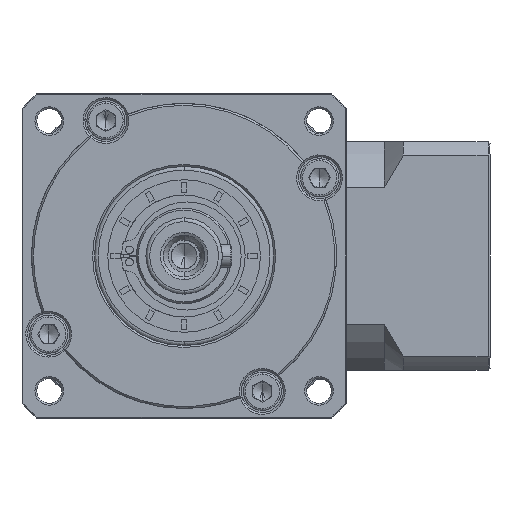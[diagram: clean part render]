
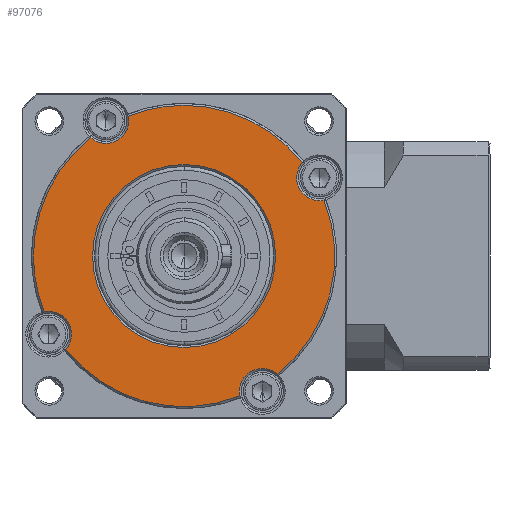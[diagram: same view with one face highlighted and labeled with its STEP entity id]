
A CAD part, left-side view. The second image highlights one B-rep face of the part: STEP entity #97076.
In plain terms, the highlighted planar face has unit normal (-1, 0, 0).
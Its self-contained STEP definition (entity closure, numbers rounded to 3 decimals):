
#1609 = ORIENTED_EDGE ( 'NONE', *, *, #156651, .T. ) ;
#2064 = CARTESIAN_POINT ( 'NONE',  ( -231.196, 13.105, 22.484 ) ) ;
#9637 = DIRECTION ( 'NONE',  ( 1., 0., 0. ) ) ;
#12214 = AXIS2_PLACEMENT_3D ( 'NONE', #108130, #16936, #123366 ) ;
#13110 = DIRECTION ( 'NONE',  ( 1., 0., 0. ) ) ;
#14337 = ORIENTED_EDGE ( 'NONE', *, *, #63316, .T. ) ;
#15468 = CARTESIAN_POINT ( 'NONE',  ( -231.196, 49.8, 7.865 ) ) ;
#16936 = DIRECTION ( 'NONE',  ( 1., 0., 0. ) ) ;
#18871 = ORIENTED_EDGE ( 'NONE', *, *, #95903, .F. ) ;
#22971 = CIRCLE ( 'NONE', #39223, 24. ) ;
#25505 = DIRECTION ( 'NONE',  ( 1., 0., 0. ) ) ;
#28348 = CIRCLE ( 'NONE', #66097, 39.5 ) ;
#30699 = DIRECTION ( 'NONE',  ( 0., 1., 0. ) ) ;
#31109 = EDGE_CURVE ( 'NONE', #88019, #94069, #172433, .T. ) ;
#32003 = CARTESIAN_POINT ( 'NONE',  ( -231.196, 25.33, -23.143 ) ) ;
#33688 = VERTEX_POINT ( 'NONE', #171262 ) ;
#34396 = VERTEX_POINT ( 'NONE', #83232 ) ;
#34654 = ORIENTED_EDGE ( 'NONE', *, *, #31109, .F. ) ;
#35747 = PLANE ( 'NONE',  #173384 ) ;
#36551 = ORIENTED_EDGE ( 'NONE', *, *, #162107, .T. ) ;
#38109 = EDGE_CURVE ( 'NONE', #94069, #62300, #65171, .T. ) ;
#38379 = CARTESIAN_POINT ( 'NONE',  ( -231.196, 80.808, -16.605 ) ) ;
#38606 = AXIS2_PLACEMENT_3D ( 'NONE', #104275, #13110, #119481 ) ;
#39223 = AXIS2_PLACEMENT_3D ( 'NONE', #88638, #194956, #103934 ) ;
#40657 = AXIS2_PLACEMENT_3D ( 'NONE', #158072, #67036, #173465 ) ;
#43710 = DIRECTION ( 'NONE',  ( 1., 0., 0. ) ) ;
#47000 = VERTEX_POINT ( 'NONE', #110642 ) ;
#50947 = ORIENTED_EDGE ( 'NONE', *, *, #136604, .T. ) ;
#52433 = DIRECTION ( 'NONE',  ( -1., 0., 0. ) ) ;
#54712 = VERTEX_POINT ( 'NONE', #139930 ) ;
#55370 = CARTESIAN_POINT ( 'NONE',  ( -231.196, 85.307, -12.635 ) ) ;
#55677 = EDGE_CURVE ( 'NONE', #54712, #33688, #157417, .T. ) ;
#56336 = ORIENTED_EDGE ( 'NONE', *, *, #93234, .T. ) ;
#57603 = EDGE_CURVE ( 'NONE', #141003, #166848, #139914, .T. ) ;
#60296 = ORIENTED_EDGE ( 'NONE', *, *, #110758, .F. ) ;
#62300 = VERTEX_POINT ( 'NONE', #191277 ) ;
#63316 = EDGE_CURVE ( 'NONE', #190993, #62300, #195968, .T. ) ;
#64178 = EDGE_LOOP ( 'NONE', ( #34654, #101072, #1609, #164021, #60296, #36551, #18871, #50947, #186577, #56336, #14337, #64873 ) ) ;
#64873 = ORIENTED_EDGE ( 'NONE', *, *, #38109, .F. ) ;
#65171 = CIRCLE ( 'NONE', #12214, 39.5 ) ;
#66097 = AXIS2_PLACEMENT_3D ( 'NONE', #100764, #9637, #116028 ) ;
#67036 = DIRECTION ( 'NONE',  ( 1., 0., 0. ) ) ;
#68455 = EDGE_CURVE ( 'NONE', #88019, #128369, #145598, .T. ) ;
#70680 = DIRECTION ( 'NONE',  ( 0., 0., -1. ) ) ;
#74310 = CARTESIAN_POINT ( 'NONE',  ( -231.196, 49.8, 7.865 ) ) ;
#77741 = CARTESIAN_POINT ( 'NONE',  ( -231.196, 49.8, 7.865 ) ) ;
#82869 = DIRECTION ( 'NONE',  ( 1., 0., 0. ) ) ;
#83061 = CIRCLE ( 'NONE', #108244, 39.5 ) ;
#83154 = AXIS2_PLACEMENT_3D ( 'NONE', #55370, #161769, #70680 ) ;
#83232 = CARTESIAN_POINT ( 'NONE',  ( -231.196, 86.495, -6.754 ) ) ;
#84898 = CARTESIAN_POINT ( 'NONE',  ( -231.196, 29.3, -27.642 ) ) ;
#85511 = CIRCLE ( 'NONE', #111395, 6. ) ;
#85834 = DIRECTION ( 'NONE',  ( 1., 0., 0. ) ) ;
#88019 = VERTEX_POINT ( 'NONE', #176083 ) ;
#88638 = CARTESIAN_POINT ( 'NONE',  ( -231.196, 49.8, 7.865 ) ) ;
#89514 = EDGE_CURVE ( 'NONE', #33688, #54712, #22971, .T. ) ;
#89718 = DIRECTION ( 'NONE',  ( 0., 0., 1. ) ) ;
#91175 = CIRCLE ( 'NONE', #38606, 6. ) ;
#93066 = DIRECTION ( 'NONE',  ( 0., -1., 0. ) ) ;
#93234 = EDGE_CURVE ( 'NONE', #141003, #190993, #91175, .T. ) ;
#94069 = VERTEX_POINT ( 'NONE', #185143 ) ;
#95903 = EDGE_CURVE ( 'NONE', #133858, #108628, #184547, .T. ) ;
#97076 = ADVANCED_FACE ( 'NONE', ( #146898, #151653 ), #35747, .T. ) ;
#97331 = CARTESIAN_POINT ( 'NONE',  ( -231.196, 74.27, 38.873 ) ) ;
#98987 = AXIS2_PLACEMENT_3D ( 'NONE', #176875, #85834, #192146 ) ;
#99242 = CARTESIAN_POINT ( 'NONE',  ( -231.196, 35.181, -28.83 ) ) ;
#100135 = DIRECTION ( 'NONE',  ( 0., 0., -1. ) ) ;
#100764 = CARTESIAN_POINT ( 'NONE',  ( -231.196, 49.8, 7.865 ) ) ;
#101072 = ORIENTED_EDGE ( 'NONE', *, *, #68455, .T. ) ;
#103934 = DIRECTION ( 'NONE',  ( 0., -1., 0. ) ) ;
#104275 = CARTESIAN_POINT ( 'NONE',  ( -231.196, 14.293, 28.365 ) ) ;
#108130 = CARTESIAN_POINT ( 'NONE',  ( -231.196, 49.8, 7.865 ) ) ;
#108244 = AXIS2_PLACEMENT_3D ( 'NONE', #15468, #121876, #30699 ) ;
#108628 = VERTEX_POINT ( 'NONE', #38379 ) ;
#110642 = CARTESIAN_POINT ( 'NONE',  ( -231.196, 89.3, 7.865 ) ) ;
#110758 = EDGE_CURVE ( 'NONE', #34396, #47000, #28348, .T. ) ;
#111395 = AXIS2_PLACEMENT_3D ( 'NONE', #134845, #43710, #150073 ) ;
#111469 = AXIS2_PLACEMENT_3D ( 'NONE', #84898, #191203, #100135 ) ;
#115685 = ORIENTED_EDGE ( 'NONE', *, *, #55677, .T. ) ;
#115789 = CIRCLE ( 'NONE', #83154, 6. ) ;
#116028 = DIRECTION ( 'NONE',  ( 0., 1., 0. ) ) ;
#116666 = CARTESIAN_POINT ( 'NONE',  ( -231.196, 49.8, 7.865 ) ) ;
#119481 = DIRECTION ( 'NONE',  ( 0., 0., -1. ) ) ;
#120056 = AXIS2_PLACEMENT_3D ( 'NONE', #77741, #184198, #93066 ) ;
#121876 = DIRECTION ( 'NONE',  ( 1., 0., 0. ) ) ;
#123366 = DIRECTION ( 'NONE',  ( 0., 0., 1. ) ) ;
#124331 = AXIS2_PLACEMENT_3D ( 'NONE', #74310, #180770, #89718 ) ;
#128369 = VERTEX_POINT ( 'NONE', #141156 ) ;
#132030 = DIRECTION ( 'NONE',  ( 0., 0., 1. ) ) ;
#133858 = VERTEX_POINT ( 'NONE', #99242 ) ;
#134845 = CARTESIAN_POINT ( 'NONE',  ( -231.196, 70.3, 43.372 ) ) ;
#136604 = EDGE_CURVE ( 'NONE', #133858, #166848, #175703, .T. ) ;
#139914 = CIRCLE ( 'NONE', #158074, 39.5 ) ;
#139930 = CARTESIAN_POINT ( 'NONE',  ( -231.196, 25.8, 7.865 ) ) ;
#140512 = EDGE_LOOP ( 'NONE', ( #115685, #162925 ) ) ;
#141003 = VERTEX_POINT ( 'NONE', #2064 ) ;
#141156 = CARTESIAN_POINT ( 'NONE',  ( -231.196, 70.3, 37.372 ) ) ;
#143541 = CARTESIAN_POINT ( 'NONE',  ( -231.196, 49.8, 7.865 ) ) ;
#145598 = CIRCLE ( 'NONE', #98987, 6. ) ;
#146898 = FACE_OUTER_BOUND ( 'NONE', #64178, .T. ) ;
#150073 = DIRECTION ( 'NONE',  ( 0., 0., -1. ) ) ;
#151653 = FACE_BOUND ( 'NONE', #140512, .T. ) ;
#156651 = EDGE_CURVE ( 'NONE', #128369, #181500, #85511, .T. ) ;
#157417 = CIRCLE ( 'NONE', #120056, 24. ) ;
#158072 = CARTESIAN_POINT ( 'NONE',  ( -231.196, 14.293, 28.365 ) ) ;
#158074 = AXIS2_PLACEMENT_3D ( 'NONE', #116666, #25505, #132030 ) ;
#158794 = DIRECTION ( 'NONE',  ( 0., 0., -1. ) ) ;
#159262 = CARTESIAN_POINT ( 'NONE',  ( -231.196, 14.293, 22.365 ) ) ;
#161769 = DIRECTION ( 'NONE',  ( 1., 0., 0. ) ) ;
#162107 = EDGE_CURVE ( 'NONE', #34396, #108628, #115789, .T. ) ;
#162925 = ORIENTED_EDGE ( 'NONE', *, *, #89514, .T. ) ;
#164021 = ORIENTED_EDGE ( 'NONE', *, *, #193124, .F. ) ;
#166848 = VERTEX_POINT ( 'NONE', #32003 ) ;
#171262 = CARTESIAN_POINT ( 'NONE',  ( -231.196, 73.8, 7.865 ) ) ;
#172433 = CIRCLE ( 'NONE', #124331, 39.5 ) ;
#173384 = AXIS2_PLACEMENT_3D ( 'NONE', #143541, #52433, #158794 ) ;
#173465 = DIRECTION ( 'NONE',  ( 0., 0., -1. ) ) ;
#173942 = CARTESIAN_POINT ( 'NONE',  ( -231.196, 49.8, 7.865 ) ) ;
#175671 = AXIS2_PLACEMENT_3D ( 'NONE', #173942, #82869, #189246 ) ;
#175703 = CIRCLE ( 'NONE', #111469, 6. ) ;
#176083 = CARTESIAN_POINT ( 'NONE',  ( -231.196, 64.419, 44.56 ) ) ;
#176875 = CARTESIAN_POINT ( 'NONE',  ( -231.196, 70.3, 43.372 ) ) ;
#180770 = DIRECTION ( 'NONE',  ( 1., 0., 0. ) ) ;
#181500 = VERTEX_POINT ( 'NONE', #97331 ) ;
#184198 = DIRECTION ( 'NONE',  ( 1., 0., 0. ) ) ;
#184547 = CIRCLE ( 'NONE', #175671, 39.5 ) ;
#185143 = CARTESIAN_POINT ( 'NONE',  ( -231.196, 49.8, 47.365 ) ) ;
#186577 = ORIENTED_EDGE ( 'NONE', *, *, #57603, .F. ) ;
#189246 = DIRECTION ( 'NONE',  ( 0., 0., 1. ) ) ;
#190993 = VERTEX_POINT ( 'NONE', #159262 ) ;
#191203 = DIRECTION ( 'NONE',  ( 1., 0., 0. ) ) ;
#191277 = CARTESIAN_POINT ( 'NONE',  ( -231.196, 18.792, 32.334 ) ) ;
#192146 = DIRECTION ( 'NONE',  ( 0., 0., -1. ) ) ;
#193124 = EDGE_CURVE ( 'NONE', #47000, #181500, #83061, .T. ) ;
#194956 = DIRECTION ( 'NONE',  ( 1., 0., 0. ) ) ;
#195968 = CIRCLE ( 'NONE', #40657, 6. ) ;
